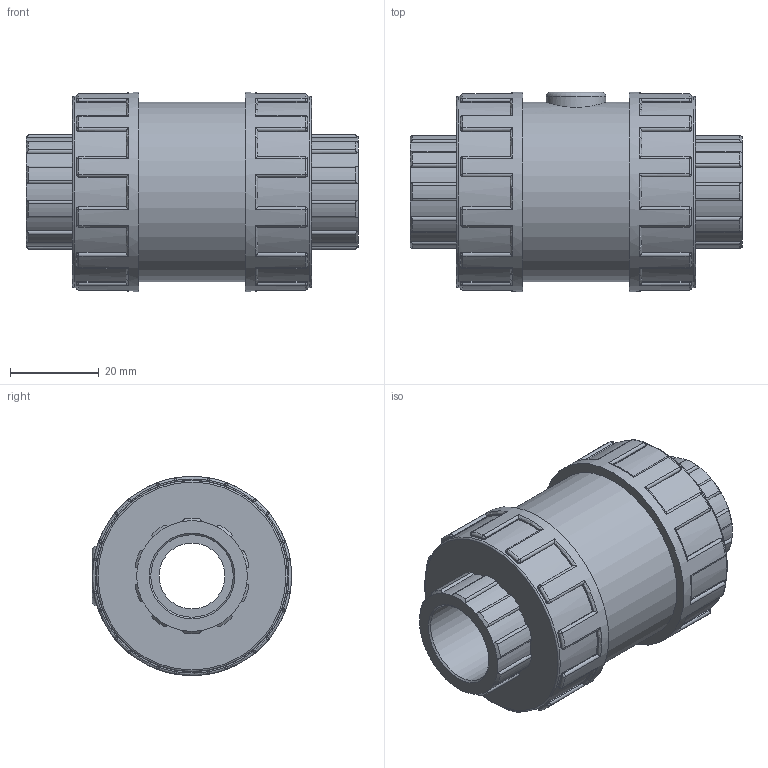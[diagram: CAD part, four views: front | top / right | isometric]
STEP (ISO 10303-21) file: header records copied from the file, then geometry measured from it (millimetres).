
FILE_DESCRIPTION(/* description */ ('PLASSON AIR RELEASE VALVE THR PVC 1/2"'),/* implementation_level */ '2;1');
FILE_NAME(/* name */ 'C:\Dropbox\KIMPROJECTS-Inventor\99-16-3568-Processing\PVC Catalog 2017\116310 - 116910\116310005.ipt.stp',/* time_stamp */ '2017-12-07T16:13:40+02:00',/* author */ ('KIM'),/* organization */ (''),/* preprocessor_version */ 'ST-DEVELOPER v15.6',/* originating_system */ 'Autodesk Inventor 2015',/* authorisation */ '');
FILE_SCHEMA (('AUTOMOTIVE_DESIGN { 1 0 10303 214 3 1 1 }'));
Length unit declared in the file: millimetre
Products named in the file (1): 116310005
Bounding box: 75 x 45 x 45 mm (x, y, z)
Volume: 71725.1 mm3; surface area: 16629.6 mm2
Topology: 1 solids, 1 shells, 411 faces, 1021 edges, 618 vertices
Faces by surface type: cylinder 185, plane 105, torus 51, sphere 48, cone 22
Full cylindrical faces by diameter (mm): 13.5 x1, 14.905 x1, 18.631 x2, 40.5 x1, 43.2 x2, 45 x2
Entity records: 13378 total; most frequent: CARTESIAN_POINT 3599, DIRECTION 2180, ORIENTED_EDGE 1998, EDGE_CURVE 999, AXIS2_PLACEMENT_3D 906, VERTEX_POINT 611, CIRCLE 494, EDGE_LOOP 434
